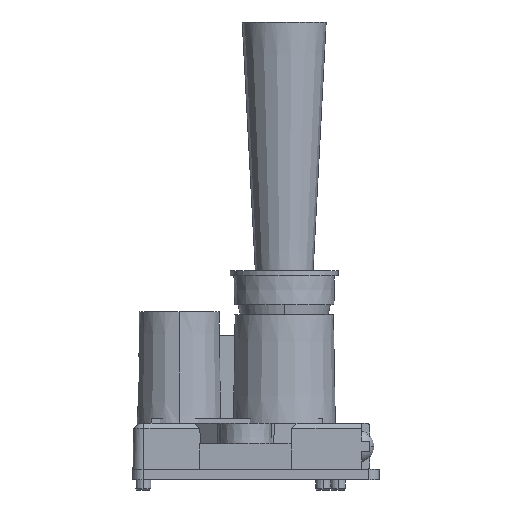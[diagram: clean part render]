
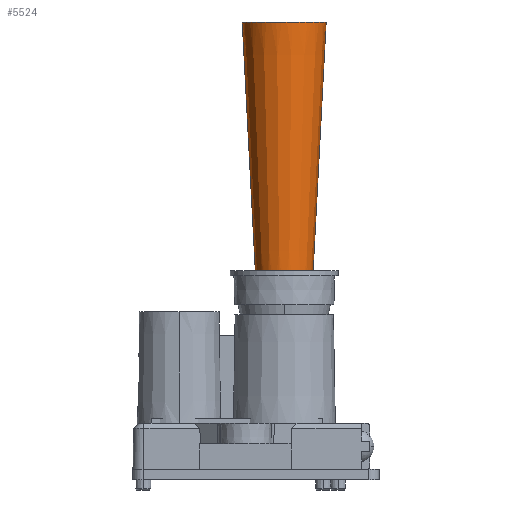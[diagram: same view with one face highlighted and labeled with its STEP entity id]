
A CAD part, front view. The second image highlights one B-rep face of the part: STEP entity #5524.
In plain terms, the highlighted conical face has half-angle 3 degrees and reference radius 3.42 mm.
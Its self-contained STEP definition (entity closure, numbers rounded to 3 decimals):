
#16 = VERTEX_POINT ( 'NONE', #6886 ) ;
#197 = CARTESIAN_POINT ( 'NONE',  ( -1.071, 3.984, -25.113 ) ) ;
#235 = CARTESIAN_POINT ( 'NONE',  ( -0.535, 4.09, -25.113 ) ) ;
#272 = CARTESIAN_POINT ( 'NONE',  ( 0.535, 4.09, -25.113 ) ) ;
#301 = CARTESIAN_POINT ( 'NONE',  ( 3.197, 0., -8.064 ) ) ;
#397 = CARTESIAN_POINT ( 'NONE',  ( 2.514, 3.271, -25.113 ) ) ;
#462 = CARTESIAN_POINT ( 'NONE',  ( -0.36, 2.75, 0.46 ) ) ;
#499 = CARTESIAN_POINT ( 'NONE',  ( 2.75, 0., 0.46 ) ) ;
#512 = EDGE_CURVE ( 'NONE', #3528, #2826, #2459, .T. ) ;
#745 = CARTESIAN_POINT ( 'NONE',  ( 3.984, 1.071, -25.113 ) ) ;
#783 = CARTESIAN_POINT ( 'NONE',  ( 3.271, 2.514, -25.113 ) ) ;
#1002 = FACE_OUTER_BOUND ( 'NONE', #5000, .T. ) ;
#1242 = CARTESIAN_POINT ( 'NONE',  ( -3.644, 0., -16.588 ) ) ;
#1254 = B_SPLINE_CURVE_WITH_KNOTS ( 'NONE', 3,
 ( #5098, #3972, #1242, #3448 ),
 .UNSPECIFIED., .F., .F.,
 ( 4, 4 ),
 ( 0., 1. ),
 .UNSPECIFIED. ) ;
#1377 = CARTESIAN_POINT ( 'NONE',  ( 2.75, 0., 0.46 ) ) ;
#1530 = CARTESIAN_POINT ( 'NONE',  ( 2.679, 0.72, 0.46 ) ) ;
#2055 = CARTESIAN_POINT ( 'NONE',  ( -3.271, 2.514, -25.113 ) ) ;
#2114 = CARTESIAN_POINT ( 'NONE',  ( -2.75, 0.36, 0.46 ) ) ;
#2147 = CARTESIAN_POINT ( 'NONE',  ( 2.75, 0.36, 0.46 ) ) ;
#2181 = CARTESIAN_POINT ( 'NONE',  ( 2.403, 1.385, 0.46 ) ) ;
#2196 = ORIENTED_EDGE ( 'NONE', *, *, #512, .T. ) ;
#2429 = CARTESIAN_POINT ( 'NONE',  ( -4.09, 0.535, -25.113 ) ) ;
#2459 = B_SPLINE_CURVE_WITH_KNOTS ( 'NONE', 3,
 ( #3477, #5235, #301, #1377 ),
 .UNSPECIFIED., .F., .F.,
 ( 4, 4 ),
 ( 0., 1. ),
 .UNSPECIFIED. ) ;
#2488 = ORIENTED_EDGE ( 'NONE', *, *, #3621, .F. ) ;
#2555 = EDGE_CURVE ( 'NONE', #5001, #16, #1254, .T. ) ;
#2589 = CARTESIAN_POINT ( 'NONE',  ( 1.071, 3.984, -25.113 ) ) ;
#2687 = CARTESIAN_POINT ( 'NONE',  ( 1.69, 2.199, 0.46 ) ) ;
#2723 = CARTESIAN_POINT ( 'NONE',  ( -2.679, 0.72, 0.46 ) ) ;
#2826 = VERTEX_POINT ( 'NONE', #3657 ) ;
#3303 = CARTESIAN_POINT ( 'NONE',  ( 2.199, 1.69, 0.46 ) ) ;
#3448 = CARTESIAN_POINT ( 'NONE',  ( -4.09, 0., -25.113 ) ) ;
#3476 = ORIENTED_EDGE ( 'NONE', *, *, #2555, .T. ) ;
#3477 = CARTESIAN_POINT ( 'NONE',  ( 4.09, 0., -25.113 ) ) ;
#3528 = VERTEX_POINT ( 'NONE', #4198 ) ;
#3621 = EDGE_CURVE ( 'NONE', #5001, #2826, #4184, .T. ) ;
#3657 = CARTESIAN_POINT ( 'NONE',  ( 2.75, 0., 0.46 ) ) ;
#3694 = CONICAL_SURFACE ( 'NONE', #5781, 3.42, 0.052 ) ;
#3972 = CARTESIAN_POINT ( 'NONE',  ( -3.197, 0., -8.064 ) ) ;
#4045 = CARTESIAN_POINT ( 'NONE',  ( -3.984, 1.071, -25.113 ) ) ;
#4184 = B_SPLINE_CURVE_WITH_KNOTS ( 'NONE', 3,
 ( #4240, #2114, #2723, #5986, #6471, #7119, #4918, #4308, #462, #6540, #5127, #6054, #2687, #3303, #2181, #1530, #2147, #499 ),
 .UNSPECIFIED., .F., .F.,
 ( 4, 2, 2, 2, 2, 2, 2, 2, 4 ),
 ( -1., -0.875, -0.75, -0.625, -0.5, -0.375, -0.25, -0.125, 0. ),
 .UNSPECIFIED. ) ;
#4198 = CARTESIAN_POINT ( 'NONE',  ( 4.09, 0., -25.113 ) ) ;
#4240 = CARTESIAN_POINT ( 'NONE',  ( -2.75, 0., 0.46 ) ) ;
#4253 = CARTESIAN_POINT ( 'NONE',  ( -4.09, 0., -25.113 ) ) ;
#4308 = CARTESIAN_POINT ( 'NONE',  ( -0.72, 2.679, 0.46 ) ) ;
#4310 = CARTESIAN_POINT ( 'NONE',  ( 0., 0., -12.326 ) ) ;
#4375 = ORIENTED_EDGE ( 'NONE', *, *, #6059, .F. ) ;
#4658 = CARTESIAN_POINT ( 'NONE',  ( -3.574, 2.06, -25.113 ) ) ;
#4786 = CARTESIAN_POINT ( 'NONE',  ( -2.06, 3.574, -25.113 ) ) ;
#4918 = CARTESIAN_POINT ( 'NONE',  ( -1.385, 2.403, 0.46 ) ) ;
#5000 = EDGE_LOOP ( 'NONE', ( #2488, #3476, #4375, #2196 ) ) ;
#5001 = VERTEX_POINT ( 'NONE', #5849 ) ;
#5098 = CARTESIAN_POINT ( 'NONE',  ( -2.75, 0., 0.46 ) ) ;
#5127 = CARTESIAN_POINT ( 'NONE',  ( 0.72, 2.679, 0.46 ) ) ;
#5210 = CARTESIAN_POINT ( 'NONE',  ( 4.09, 0.535, -25.113 ) ) ;
#5235 = CARTESIAN_POINT ( 'NONE',  ( 3.644, 0., -16.588 ) ) ;
#5524 = ADVANCED_FACE ( 'NONE', ( #1002 ), #3694, .F. ) ;
#5615 = DIRECTION ( 'NONE',  ( 0., 0., -1. ) ) ;
#5781 = AXIS2_PLACEMENT_3D ( 'NONE', #4310, #5615, #6165 ) ;
#5849 = CARTESIAN_POINT ( 'NONE',  ( -2.75, 0., 0.46 ) ) ;
#5986 = CARTESIAN_POINT ( 'NONE',  ( -2.403, 1.385, 0.46 ) ) ;
#6054 = CARTESIAN_POINT ( 'NONE',  ( 1.385, 2.403, 0.46 ) ) ;
#6059 = EDGE_CURVE ( 'NONE', #3528, #16, #6429, .T. ) ;
#6165 = DIRECTION ( 'NONE',  ( 1., 0., 0. ) ) ;
#6269 = CARTESIAN_POINT ( 'NONE',  ( 4.09, 0., -25.113 ) ) ;
#6429 = B_SPLINE_CURVE_WITH_KNOTS ( 'NONE', 3,
 ( #6269, #5210, #745, #6869, #783, #397, #6835, #2589, #272, #235, #197, #4786, #7030, #2055, #4658, #4045, #2429, #4253 ),
 .UNSPECIFIED., .F., .F.,
 ( 4, 2, 2, 2, 2, 2, 2, 2, 4 ),
 ( -1., -0.875, -0.75, -0.625, -0.5, -0.375, -0.25, -0.125, 0. ),
 .UNSPECIFIED. ) ;
#6471 = CARTESIAN_POINT ( 'NONE',  ( -2.199, 1.69, 0.46 ) ) ;
#6540 = CARTESIAN_POINT ( 'NONE',  ( 0.36, 2.75, 0.46 ) ) ;
#6835 = CARTESIAN_POINT ( 'NONE',  ( 2.06, 3.574, -25.113 ) ) ;
#6869 = CARTESIAN_POINT ( 'NONE',  ( 3.574, 2.06, -25.113 ) ) ;
#6886 = CARTESIAN_POINT ( 'NONE',  ( -4.09, 0., -25.113 ) ) ;
#7030 = CARTESIAN_POINT ( 'NONE',  ( -2.514, 3.271, -25.113 ) ) ;
#7119 = CARTESIAN_POINT ( 'NONE',  ( -1.69, 2.199, 0.46 ) ) ;
